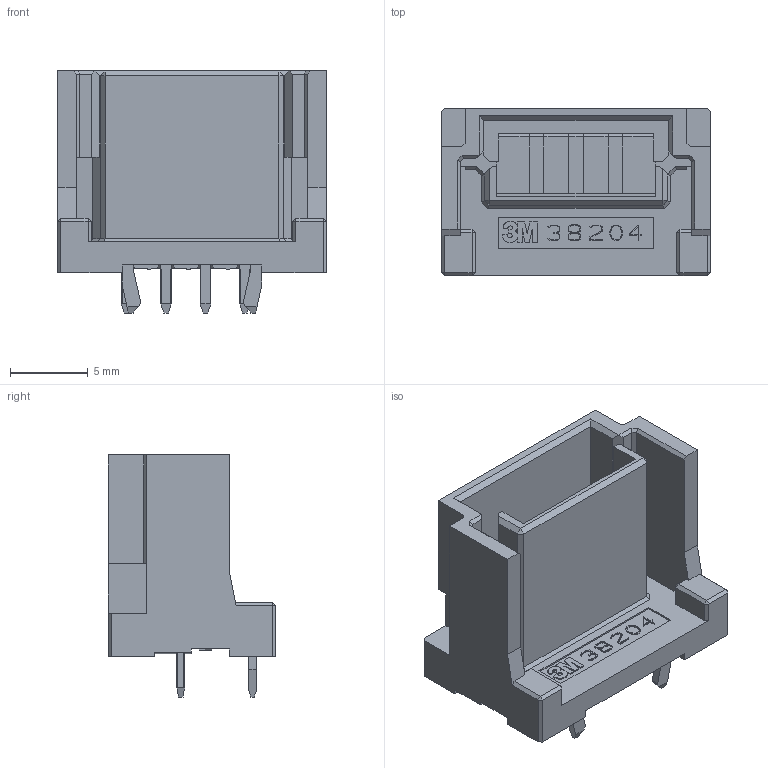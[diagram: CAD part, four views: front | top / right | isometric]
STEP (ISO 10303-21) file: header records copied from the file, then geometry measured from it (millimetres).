
FILE_DESCRIPTION(/* description */ (''),/* implementation_level */ '2;1');
FILE_NAME(/* name */ '38204-62S3-X0X PL_step.stp',/* time_stamp */ '2008-08-04T15:15:49-05:00',/* author */ (''),/* organization */ (''),/* preprocessor_version */ 'ST-DEVELOPER v11',/* originating_system */ 'UGS - NX 5.0',/* authorisation */ '');
FILE_SCHEMA (('CONFIG_CONTROL_DESIGN'));
Length unit declared in the file: inch
Products named in the file (1): 38204-62S3-X0X PL_3Dnon-pram
Bounding box: 17.3 x 10.8 x 15.6 mm (x, y, z)
Volume: 975.4 mm3; surface area: 1623 mm2
Topology: 1 solids, 1 shells, 590 faces, 1609 edges, 1052 vertices
Faces by surface type: plane 574, cylinder 10, extrusion 6
Entity records: 18523 total; most frequent: CARTESIAN_POINT 3534, ORIENTED_EDGE 3218, DIRECTION 2793, EDGE_CURVE 1609, VECTOR 1583, LINE 1577, VERTEX_POINT 1052, EDGE_LOOP 621
